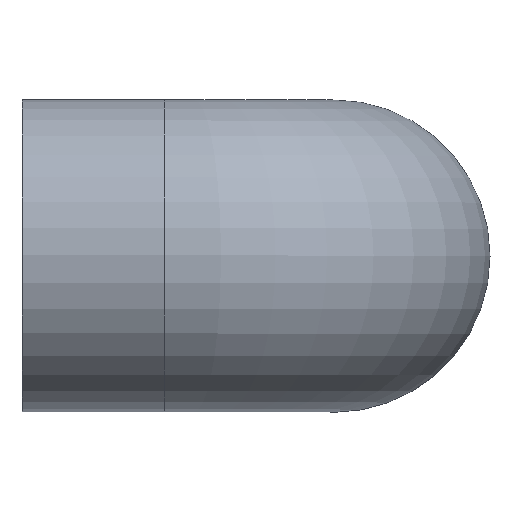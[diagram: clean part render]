
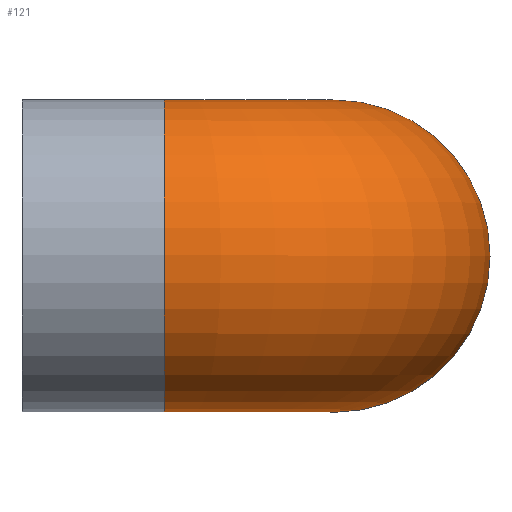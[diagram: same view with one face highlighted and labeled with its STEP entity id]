
A CAD part, top view. The second image highlights one B-rep face of the part: STEP entity #121.
In plain terms, the highlighted toroidal (fillet/blend) face has major radius 12.5 mm and minor radius 11.5 mm.
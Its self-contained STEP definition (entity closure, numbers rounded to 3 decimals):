
#29=FACE_BOUND('',#56,.T.);
#39=FACE_OUTER_BOUND('',#55,.T.);
#55=EDGE_LOOP('',(#105));
#56=EDGE_LOOP('',(#106));
#70=CIRCLE('',#140,11.5);
#71=CIRCLE('',#142,11.5);
#80=VERTEX_POINT('',#210);
#81=VERTEX_POINT('',#213);
#90=EDGE_CURVE('',#80,#80,#70,.T.);
#91=EDGE_CURVE('',#81,#81,#71,.T.);
#105=ORIENTED_EDGE('',*,*,#90,.F.);
#106=ORIENTED_EDGE('',*,*,#91,.T.);
#114=TOROIDAL_SURFACE('',#141,12.5,11.5);
#121=ADVANCED_FACE('',(#39,#29),#114,.T.);
#140=AXIS2_PLACEMENT_3D('',#211,#175,#176);
#141=AXIS2_PLACEMENT_3D('',#212,#177,#178);
#142=AXIS2_PLACEMENT_3D('',#214,#179,#180);
#175=DIRECTION('center_axis',(-1.,0.,0.));
#176=DIRECTION('ref_axis',(0.,0.,-1.));
#177=DIRECTION('center_axis',(0.,-1.,0.));
#178=DIRECTION('ref_axis',(0.,0.,-1.));
#179=DIRECTION('center_axis',(0.,0.,1.));
#180=DIRECTION('ref_axis',(-1.,0.,0.));
#210=CARTESIAN_POINT('',(-12.5,0.,34.5));
#211=CARTESIAN_POINT('Origin',(-12.5,0.,23.));
#212=CARTESIAN_POINT('Origin',(-12.5,0.,10.5));
#213=CARTESIAN_POINT('',(11.5,0.,10.5));
#214=CARTESIAN_POINT('Origin',(0.,0.,10.5));
